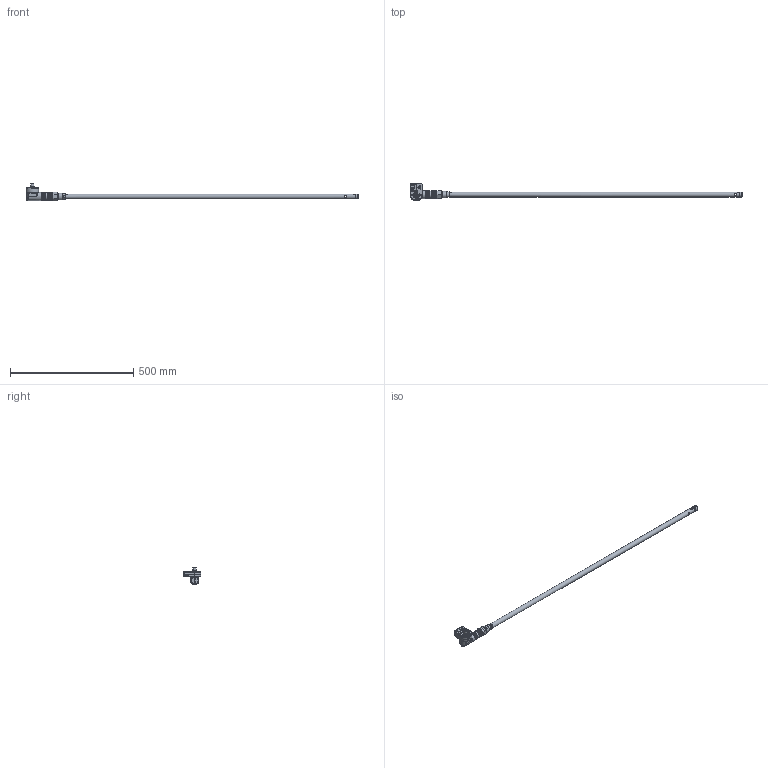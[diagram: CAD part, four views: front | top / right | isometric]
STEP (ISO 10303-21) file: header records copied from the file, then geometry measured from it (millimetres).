
FILE_DESCRIPTION(/* description */ (''),/* implementation_level */ '2;1');
FILE_NAME(/* name */ 'R:\Mekanisk design\HBLT-A3\5. STEP files\HBLT-A3-12-6.stp',/* time_stamp */ '2023-01-10T15:04:16+01:00',/* author */ ('ma'),/* organization */ (''),/* preprocessor_version */ 'ST-DEVELOPER v18.1',/* originating_system */ 'Autodesk Inventor 2021',/* authorisation */ '');
FILE_SCHEMA (('AUTOMOTIVE_DESIGN { 1 0 10303 214 3 1 1 }'));
Products named in the file (1): HBLT-A3-BSPP-Komp-R1_Shrinkwrap_5
Bounding box: 1348.3 x 72 x 71.99 mm (x, y, z)
Volume: 158340.1 mm3; surface area: 217399.9 mm2
Topology: 12 solids, 12 shells, 1439 faces, 3597 edges, 2281 vertices
Faces by surface type: plane 745, cylinder 278, bspline 201, cone 164, torus 43, sphere 8
Full cylindrical faces by diameter (mm): 0.5 x2, 3 x3, 3.2 x1, 3.6 x3, 4 x18, 4.2 x1, 4.7 x1, 5 x2, 6.647 x1, 8 x4, 8.5 x1, 10 x4, 10.1 x1, 10.4 x1, 10.917 x1, 12 x1, 12.5 x2, 13 x1, 15.5 x1, 17.9 x2, 18 x3, 19 x2, 20 x5, 22 x1, 23.8 x1, 24 x4, 25 x1, 25.376 x1, 25.4 x1, 26 x2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
Entity records: 52781 total; most frequent: CARTESIAN_POINT 18829, ORIENTED_EDGE 7186, DIRECTION 6036, EDGE_CURVE 3593, VERTEX_POINT 2281, AXIS2_PLACEMENT_3D 2070, LINE 1896, VECTOR 1896
